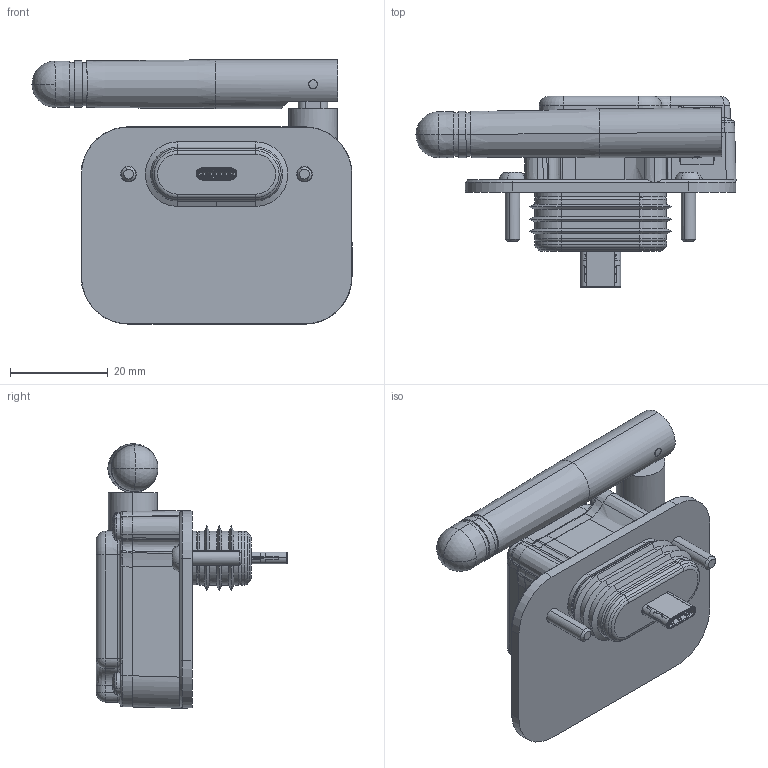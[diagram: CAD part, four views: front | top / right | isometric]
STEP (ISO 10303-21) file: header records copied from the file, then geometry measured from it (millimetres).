
FILE_DESCRIPTION (( 'STEP AP214' ), '1' );
FILE_NAME ('Connect Module.STEP', '2025-11-13T21:00:29', ( '' ), ( '' ), 'SwSTEP 2.0', 'SolidWorks 2022', '' );
FILE_SCHEMA (( 'AUTOMOTIVE_DESIGN' ));
Length unit declared in the file: millimetre
Products named in the file (13): Nut; CT copy_5135836-00; CSPPNSM-STU-TP2_5-10_214; Connect Module; CUI_DEVICES_UP31-CV-G-CM; 86298-_PCB_D.0^MV Radio Assy; Washer; 86298-601 RA2_TOP COVER; CT_5140029-00_After assembling; 86298-603 RA2_GASKET; 86298-602 RA2_BOTTOM COVER; HARMAN_2.4GHzAntenna_90Degree^86298-900 MV USB_20240125; New Antenna SMA Jack
Assembly tree (16 placements, depth 2):
  Connect Module
    86298-601 RA2_TOP COVER
    86298-602 RA2_BOTTOM COVER
    86298-603 RA2_GASKET
    86298-_PCB_D.0^MV Radio Assy
    CSPPNSM-STU-TP2_5-10_214  x4
    CT copy_5135836-00  x2
    CT_5140029-00_After assembling
    HARMAN_2.4GHzAntenna_90Degree^86298-900 MV USB_20240125
    CUI_DEVICES_UP31-CV-G-CM
    New Antenna SMA Jack
    Nut
    Washer
Bounding box: 65.49 x 39.23 x 54.12 mm (x, y, z)
Volume: 25346.1 mm3; surface area: 22723 mm2
Topology: 17 solids, 27 shells, 3166 faces, 8609 edges, 5557 vertices
Faces by surface type: plane 1633, cylinder 1145, cone 188, bspline 91, torus 64, sphere 45
Entity records: 99644 total; most frequent: CARTESIAN_POINT 21981, ORIENTED_EDGE 16502, DIRECTION 15922, EDGE_CURVE 8251, AXIS2_PLACEMENT_3D 5363, VERTEX_POINT 5335, LINE 5196, VECTOR 5196
